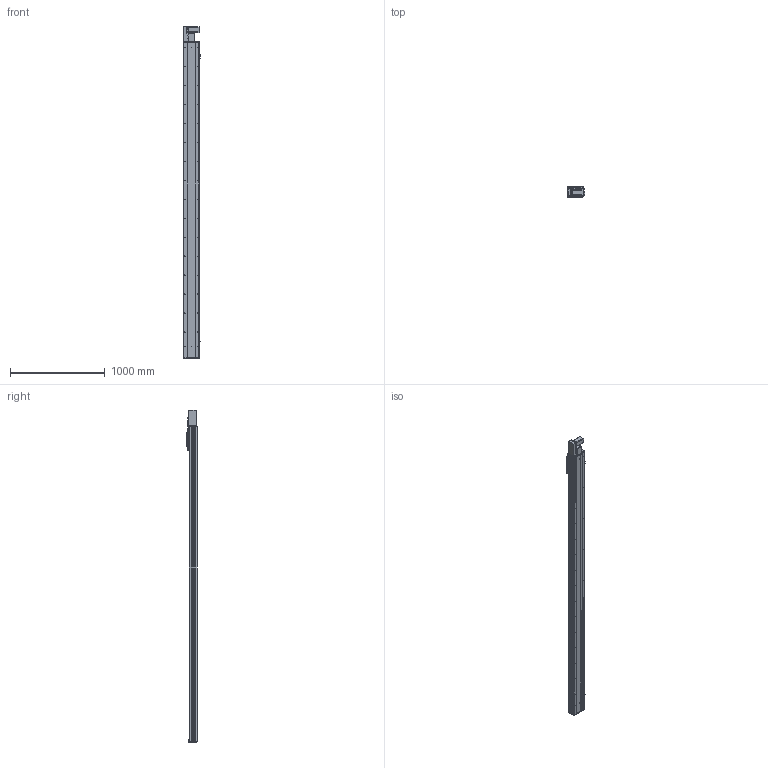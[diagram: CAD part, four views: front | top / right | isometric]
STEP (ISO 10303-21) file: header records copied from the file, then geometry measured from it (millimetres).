
FILE_DESCRIPTION (( 'STEP AP203' ), '1' );
FILE_NAME ('Y170CB-D105-S3000-BL-P400W.STEP', '2020-02-20T01:57:14', ( '微软用户' ), ( '微软中国' ), 'SwSTEP 2.0', 'SolidWorks 2017', '' );
FILE_SCHEMA (( 'CONFIG_CONTROL_DESIGN' ));
Length unit declared in the file: millimetre
Products named in the file (18): san松下电机400不带刹车----; 70B喘謫眊----; 70CB-詩湍--; Y70俋欶BR----; Y1埴倛裔; Y100-135俋离換覜ん--; 70CB-掛极-; Y170CB-D105-S3000-BL-P400W; --70CB --喘謫眊楊擘啣-; 70CB-耜裔啣-; 70C--詩湍揤踡え-; B-源倛裔啣; 70CB--耜裔; 17B-耜蚾蟀諉啣----; 70C-雄赽釱-奻-; 0B-萇儂楊擘啣; Y170CB-陔俋离換覜結え---; 0C--雄赽釱俋欶-170
Assembly tree (21 placements, depth 2):
  Y170CB-D105-S3000-BL-P400W
    B-源倛裔啣
    17B-耜蚾蟀諉啣----
    0B-萇儂楊擘啣
    san松下电机400不带刹车----
    Y70俋欶BR----
    70CB-掛极-
    --70CB --喘謫眊楊擘啣-
    70CB-耜裔啣-  x2
    70C--詩湍揤踡え-  x2
    70CB--耜裔
    70C-雄赽釱-奻-
    0C--雄赽釱俋欶-170
    70CB-詩湍--
    Y100-135俋离換覜ん--  x3
    Y170CB-陔俋离換覜結え---
    70B喘謫眊----
    Y1埴倛裔
Bounding box: 183.5 x 107 x 3497 mm (x, y, z)
Volume: 14412315.7 mm3; surface area: 5208415.9 mm2
Topology: 21 solids, 21 shells, 1087 faces, 2933 edges, 1946 vertices
Faces by surface type: cylinder 599, plane 464, cone 24
Entity records: 34948 total; most frequent: CARTESIAN_POINT 6456, DIRECTION 5686, ORIENTED_EDGE 5348, EDGE_CURVE 2674, AXIS2_PLACEMENT_3D 2104, VERTEX_POINT 1776, VECTOR 1478, LINE 1478
